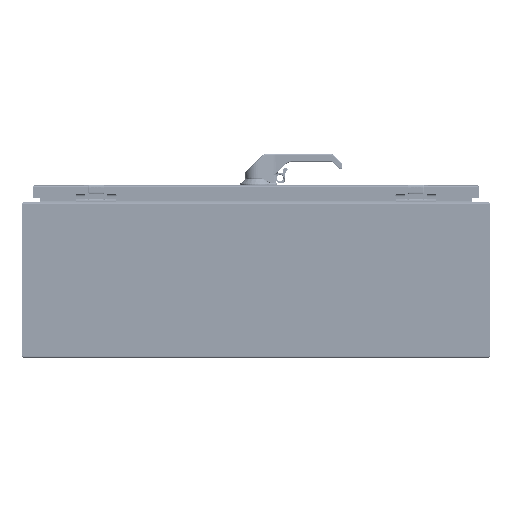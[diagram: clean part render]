
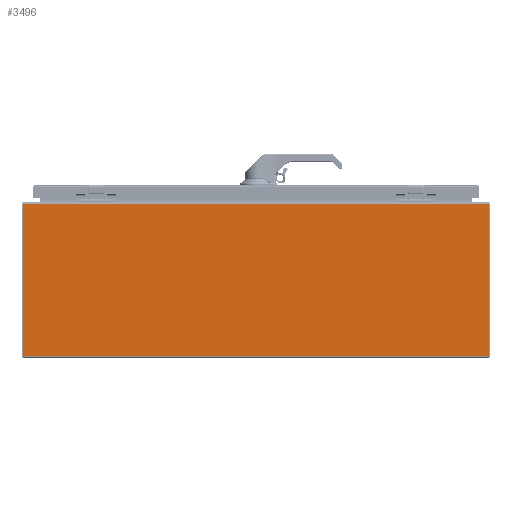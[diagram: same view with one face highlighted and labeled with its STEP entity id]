
A CAD part, left-side view. The second image highlights one B-rep face of the part: STEP entity #3496.
In plain terms, the highlighted planar face has unit normal (-1, 0, 0).
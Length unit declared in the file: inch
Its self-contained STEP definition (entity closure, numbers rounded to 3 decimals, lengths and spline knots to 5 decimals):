
#769=DIRECTION('',(0.,1.,0.));
#770=VECTOR('',#769,29.85);
#771=CARTESIAN_POINT('',(-30.,-14.925,-4.883));
#772=LINE('',#771,#770);
#938=DIRECTION('',(0.,0.,-1.));
#939=VECTOR('',#938,9.766);
#940=CARTESIAN_POINT('',(-30.,-14.925,4.883));
#941=LINE('',#940,#939);
#959=DIRECTION('',(0.,0.,-1.));
#960=VECTOR('',#959,9.766);
#961=CARTESIAN_POINT('',(-30.,14.925,4.883));
#962=LINE('',#961,#960);
#987=DIRECTION('',(0.,1.,0.));
#988=VECTOR('',#987,29.85);
#989=CARTESIAN_POINT('',(-30.,-14.925,4.883));
#990=LINE('',#989,#988);
#2302=CARTESIAN_POINT('',(-30.,-14.925,4.883));
#2303=CARTESIAN_POINT('',(-30.,-14.925,-4.883));
#2304=VERTEX_POINT('',#2302);
#2305=VERTEX_POINT('',#2303);
#2314=CARTESIAN_POINT('',(-30.,14.925,4.883));
#2315=CARTESIAN_POINT('',(-30.,14.925,-4.883));
#2316=VERTEX_POINT('',#2314);
#2317=VERTEX_POINT('',#2315);
#3483=CARTESIAN_POINT('',(-30.,-14.925,5.));
#3484=DIRECTION('',(-1.,0.,0.));
#3485=DIRECTION('',(0.,0.,-1.));
#3486=AXIS2_PLACEMENT_3D('',#3483,#3484,#3485);
#3487=PLANE('',#3486);
#3488=ORIENTED_EDGE('',*,*,#3474,.T.);
#3489=ORIENTED_EDGE('',*,*,#3357,.T.);
#3491=ORIENTED_EDGE('',*,*,#3490,.F.);
#3493=ORIENTED_EDGE('',*,*,#3492,.F.);
#3494=EDGE_LOOP('',(#3488,#3489,#3491,#3493));
#3495=FACE_OUTER_BOUND('',#3494,.F.);
#3357=EDGE_CURVE('',#2305,#2317,#772,.T.);
#3474=EDGE_CURVE('',#2304,#2305,#941,.T.);
#3490=EDGE_CURVE('',#2316,#2317,#962,.T.);
#3492=EDGE_CURVE('',#2304,#2316,#990,.T.);
#3496=ADVANCED_FACE('',(#3495),#3487,.T.);
